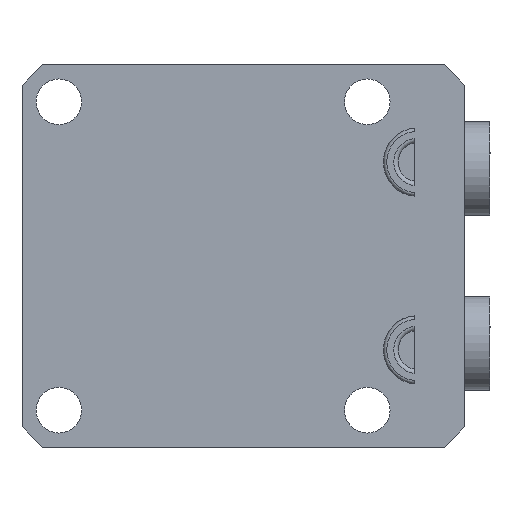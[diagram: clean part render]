
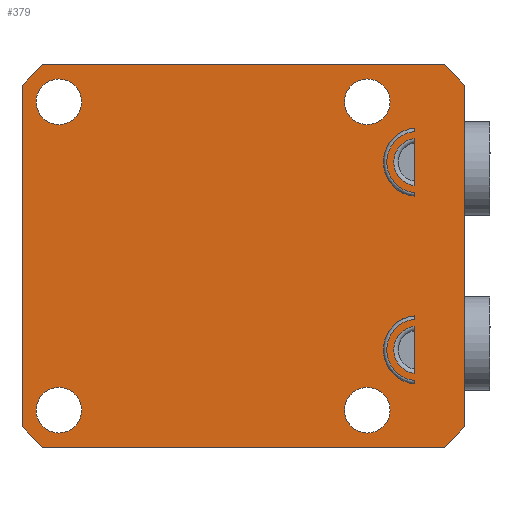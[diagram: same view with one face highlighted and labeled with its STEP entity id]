
A CAD part, front view. The second image highlights one B-rep face of the part: STEP entity #379.
In plain terms, the highlighted planar face has unit normal (0, -1, 0).
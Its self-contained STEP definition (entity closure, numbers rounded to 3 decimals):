
#246=PLANE('',#2642);
#309=FACE_BOUND('',#713,.T.);
#310=FACE_BOUND('',#714,.T.);
#311=FACE_BOUND('',#715,.T.);
#312=FACE_BOUND('',#716,.T.);
#313=FACE_BOUND('',#717,.T.);
#314=FACE_BOUND('',#718,.T.);
#315=FACE_BOUND('',#719,.T.);
#316=FACE_BOUND('',#720,.T.);
#317=FACE_BOUND('',#721,.T.);
#379=ADVANCED_FACE('',(#309,#310,#311,#312,#313,#314,#315,#316,#317),#246,
 .F.);
#713=EDGE_LOOP('',(#1090,#1091,#1092,#1093));
#714=EDGE_LOOP('',(#1094,#1095,#1096,#1097));
#715=EDGE_LOOP('',(#1098,#1099,#1100,#1101,#1102,#1103,#1104,#1105));
#716=EDGE_LOOP('',(#1106,#1107));
#717=EDGE_LOOP('',(#1108,#1109));
#718=EDGE_LOOP('',(#1110,#1111));
#719=EDGE_LOOP('',(#1112,#1113));
#720=EDGE_LOOP('',(#1114,#1115));
#721=EDGE_LOOP('',(#1116,#1117));
#867=CIRCLE('',#2590,4.6);
#871=CIRCLE('',#2596,3.55);
#873=CIRCLE('',#2599,5.1);
#876=CIRCLE('',#2604,5.1);
#878=CIRCLE('',#2607,3.55);
#880=CIRCLE('',#2611,4.6);
#885=CIRCLE('',#2622,3.4);
#887=CIRCLE('',#2625,3.4);
#889=CIRCLE('',#2628,3.4);
#891=CIRCLE('',#2631,3.4);
#895=CIRCLE('',#2638,3.4);
#896=CIRCLE('',#2639,3.4);
#897=CIRCLE('',#2640,3.4);
#898=CIRCLE('',#2641,3.4);
#1090=ORIENTED_EDGE('',*,*,#1936,.F.);
#1091=ORIENTED_EDGE('',*,*,#1994,.T.);
#1092=ORIENTED_EDGE('',*,*,#1945,.F.);
#1093=ORIENTED_EDGE('',*,*,#1995,.T.);
#1094=ORIENTED_EDGE('',*,*,#1996,.T.);
#1095=ORIENTED_EDGE('',*,*,#1929,.T.);
#1096=ORIENTED_EDGE('',*,*,#1997,.T.);
#1097=ORIENTED_EDGE('',*,*,#1916,.T.);
#1098=ORIENTED_EDGE('',*,*,#1956,.F.);
#1099=ORIENTED_EDGE('',*,*,#1998,.T.);
#1100=ORIENTED_EDGE('',*,*,#1999,.F.);
#1101=ORIENTED_EDGE('',*,*,#2000,.T.);
#1102=ORIENTED_EDGE('',*,*,#2001,.F.);
#1103=ORIENTED_EDGE('',*,*,#2002,.T.);
#1104=ORIENTED_EDGE('',*,*,#2003,.F.);
#1105=ORIENTED_EDGE('',*,*,#2004,.T.);
#1106=ORIENTED_EDGE('',*,*,#1974,.F.);
#1107=ORIENTED_EDGE('',*,*,#2005,.F.);
#1108=ORIENTED_EDGE('',*,*,#1970,.F.);
#1109=ORIENTED_EDGE('',*,*,#2006,.F.);
#1110=ORIENTED_EDGE('',*,*,#1966,.F.);
#1111=ORIENTED_EDGE('',*,*,#2007,.F.);
#1112=ORIENTED_EDGE('',*,*,#1962,.F.);
#1113=ORIENTED_EDGE('',*,*,#2008,.F.);
#1114=ORIENTED_EDGE('',*,*,#2009,.T.);
#1115=ORIENTED_EDGE('',*,*,#1939,.T.);
#1116=ORIENTED_EDGE('',*,*,#1924,.F.);
#1117=ORIENTED_EDGE('',*,*,#2010,.T.);
#1690=VERTEX_POINT('',#3602);
#1691=VERTEX_POINT('',#3603);
#1698=VERTEX_POINT('',#3686);
#1699=VERTEX_POINT('',#3687);
#1702=VERTEX_POINT('',#3728);
#1703=VERTEX_POINT('',#3730);
#1708=VERTEX_POINT('',#3743);
#1710=VERTEX_POINT('',#3746);
#1712=VERTEX_POINT('',#3752);
#1713=VERTEX_POINT('',#3753);
#1716=VERTEX_POINT('',#3830);
#1717=VERTEX_POINT('',#3831);
#1722=VERTEX_POINT('',#3914);
#1723=VERTEX_POINT('',#3916);
#1728=VERTEX_POINT('',#3929);
#1729=VERTEX_POINT('',#3930);
#1732=VERTEX_POINT('',#3938);
#1733=VERTEX_POINT('',#3939);
#1736=VERTEX_POINT('',#3947);
#1737=VERTEX_POINT('',#3948);
#1740=VERTEX_POINT('',#3956);
#1741=VERTEX_POINT('',#3957);
#1760=VERTEX_POINT('',#4040);
#1761=VERTEX_POINT('',#4042);
#1762=VERTEX_POINT('',#4044);
#1763=VERTEX_POINT('',#4046);
#1764=VERTEX_POINT('',#4048);
#1765=VERTEX_POINT('',#4050);
#1916=EDGE_CURVE('',#1690,#1691,#867,.T.);
#1924=EDGE_CURVE('',#1698,#1699,#871,.T.);
#1929=EDGE_CURVE('',#1703,#1702,#873,.T.);
#1936=EDGE_CURVE('',#1708,#1710,#876,.T.);
#1939=EDGE_CURVE('',#1712,#1713,#878,.T.);
#1945=EDGE_CURVE('',#1716,#1717,#880,.T.);
#1956=EDGE_CURVE('',#1722,#1723,#2269,.T.);
#1962=EDGE_CURVE('',#1728,#1729,#885,.T.);
#1966=EDGE_CURVE('',#1732,#1733,#887,.T.);
#1970=EDGE_CURVE('',#1736,#1737,#889,.T.);
#1974=EDGE_CURVE('',#1740,#1741,#891,.T.);
#1994=EDGE_CURVE('',#1708,#1717,#2285,.T.);
#1995=EDGE_CURVE('',#1716,#1710,#2286,.T.);
#1996=EDGE_CURVE('',#1691,#1703,#2287,.T.);
#1997=EDGE_CURVE('',#1702,#1690,#2288,.T.);
#1998=EDGE_CURVE('',#1722,#1760,#2289,.T.);
#1999=EDGE_CURVE('',#1761,#1760,#2290,.T.);
#2000=EDGE_CURVE('',#1761,#1762,#2291,.T.);
#2001=EDGE_CURVE('',#1763,#1762,#2292,.T.);
#2002=EDGE_CURVE('',#1763,#1764,#2293,.T.);
#2003=EDGE_CURVE('',#1765,#1764,#2294,.T.);
#2004=EDGE_CURVE('',#1765,#1723,#2295,.T.);
#2005=EDGE_CURVE('',#1741,#1740,#895,.T.);
#2006=EDGE_CURVE('',#1737,#1736,#896,.T.);
#2007=EDGE_CURVE('',#1733,#1732,#897,.T.);
#2008=EDGE_CURVE('',#1729,#1728,#898,.T.);
#2009=EDGE_CURVE('',#1713,#1712,#2296,.T.);
#2010=EDGE_CURVE('',#1698,#1699,#2297,.T.);
#2269=LINE('',#3915,#2429);
#2285=LINE('',#4035,#2445);
#2286=LINE('',#4036,#2446);
#2287=LINE('',#4037,#2447);
#2288=LINE('',#4038,#2448);
#2289=LINE('',#4039,#2449);
#2290=LINE('',#4041,#2450);
#2291=LINE('',#4043,#2451);
#2292=LINE('',#4045,#2452);
#2293=LINE('',#4047,#2453);
#2294=LINE('',#4049,#2454);
#2295=LINE('',#4051,#2455);
#2296=LINE('',#4056,#2456);
#2297=LINE('',#4057,#2457);
#2429=VECTOR('',#2954,1.);
#2445=VECTOR('',#3010,1.);
#2446=VECTOR('',#3011,1.);
#2447=VECTOR('',#3012,1.);
#2448=VECTOR('',#3013,1.);
#2449=VECTOR('',#3014,1.);
#2450=VECTOR('',#3015,1.);
#2451=VECTOR('',#3016,1.);
#2452=VECTOR('',#3017,1.);
#2453=VECTOR('',#3018,1.);
#2454=VECTOR('',#3019,1.);
#2455=VECTOR('',#3020,1.);
#2456=VECTOR('',#3029,1.);
#2457=VECTOR('',#3030,1.);
#2590=AXIS2_PLACEMENT_3D('',#3601,#2887,#2888);
#2596=AXIS2_PLACEMENT_3D('',#3685,#2899,#2900);
#2599=AXIS2_PLACEMENT_3D('',#3729,#2906,#2907);
#2604=AXIS2_PLACEMENT_3D('',#3745,#2920,#2921);
#2607=AXIS2_PLACEMENT_3D('',#3751,#2927,#2928);
#2611=AXIS2_PLACEMENT_3D('',#3829,#2935,#2936);
#2622=AXIS2_PLACEMENT_3D('',#3928,#2966,#2967);
#2625=AXIS2_PLACEMENT_3D('',#3937,#2974,#2975);
#2628=AXIS2_PLACEMENT_3D('',#3946,#2982,#2983);
#2631=AXIS2_PLACEMENT_3D('',#3955,#2990,#2991);
#2638=AXIS2_PLACEMENT_3D('',#4052,#3021,#3022);
#2639=AXIS2_PLACEMENT_3D('',#4053,#3023,#3024);
#2640=AXIS2_PLACEMENT_3D('',#4054,#3025,#3026);
#2641=AXIS2_PLACEMENT_3D('',#4055,#3027,#3028);
#2642=AXIS2_PLACEMENT_3D('',#4058,#3031,#3032);
#2887=DIRECTION('',(0.,-1.,0.));
#2888=DIRECTION('',(0.,0.,-1.));
#2899=DIRECTION('',(0.,-1.,0.));
#2900=DIRECTION('',(0.,0.,-1.));
#2906=DIRECTION('',(0.,1.,0.));
#2907=DIRECTION('',(0.,0.,1.));
#2920=DIRECTION('',(0.,-1.,0.));
#2921=DIRECTION('',(0.,0.,-1.));
#2927=DIRECTION('',(0.,1.,0.));
#2928=DIRECTION('',(0.,0.,1.));
#2935=DIRECTION('',(0.,1.,0.));
#2936=DIRECTION('',(0.,0.,1.));
#2954=DIRECTION('',(0.,0.,-1.));
#2966=DIRECTION('',(0.,-1.,0.));
#2967=DIRECTION('',(0.,0.,1.));
#2974=DIRECTION('',(0.,-1.,0.));
#2975=DIRECTION('',(0.,0.,1.));
#2982=DIRECTION('',(0.,-1.,0.));
#2983=DIRECTION('',(0.,0.,1.));
#2990=DIRECTION('',(0.,-1.,0.));
#2991=DIRECTION('',(0.,0.,1.));
#3010=DIRECTION('',(0.,0.,-1.));
#3011=DIRECTION('',(0.,0.,-1.));
#3012=DIRECTION('',(0.,0.,-1.));
#3013=DIRECTION('',(0.,0.,-1.));
#3014=DIRECTION('',(-0.707,0.,0.707));
#3015=DIRECTION('',(1.,0.,0.));
#3016=DIRECTION('',(-0.707,0.,-0.707));
#3017=DIRECTION('',(0.,0.,1.));
#3018=DIRECTION('',(0.707,0.,-0.707));
#3019=DIRECTION('',(-1.,0.,0.));
#3020=DIRECTION('',(0.707,0.,0.707));
#3021=DIRECTION('',(0.,-1.,0.));
#3022=DIRECTION('',(0.,0.,1.));
#3023=DIRECTION('',(0.,-1.,0.));
#3024=DIRECTION('',(0.,0.,1.));
#3025=DIRECTION('',(0.,-1.,0.));
#3026=DIRECTION('',(0.,0.,1.));
#3027=DIRECTION('',(0.,-1.,0.));
#3028=DIRECTION('',(0.,0.,1.));
#3029=DIRECTION('',(0.,0.,-1.));
#3030=DIRECTION('',(0.,0.,-1.));
#3031=DIRECTION('',(0.,1.,0.));
#3032=DIRECTION('',(0.,0.,1.));
#3601=CARTESIAN_POINT('',(30.5,0.,14.));
#3602=CARTESIAN_POINT('',(30.,0.,18.573));
#3603=CARTESIAN_POINT('',(30.,0.,9.427));
#3685=CARTESIAN_POINT('',(30.5,0.,14.));
#3686=CARTESIAN_POINT('',(30.,0.,17.515));
#3687=CARTESIAN_POINT('',(30.,0.,10.485));
#3728=CARTESIAN_POINT('',(30.,0.,19.075));
#3729=CARTESIAN_POINT('',(30.5,0.,14.));
#3730=CARTESIAN_POINT('',(30.,0.,8.925));
#3743=CARTESIAN_POINT('',(30.,0.,-8.925));
#3745=CARTESIAN_POINT('',(30.5,0.,-14.));
#3746=CARTESIAN_POINT('',(30.,0.,-19.075));
#3751=CARTESIAN_POINT('',(30.5,0.,-14.));
#3752=CARTESIAN_POINT('',(30.,0.,-17.515));
#3753=CARTESIAN_POINT('',(30.,0.,-10.485));
#3829=CARTESIAN_POINT('',(30.5,0.,-14.));
#3830=CARTESIAN_POINT('',(30.,0.,-18.573));
#3831=CARTESIAN_POINT('',(30.,0.,-9.427));
#3914=CARTESIAN_POINT('',(37.5,0.,25.5));
#3915=CARTESIAN_POINT('',(37.5,0.,-28.5));
#3916=CARTESIAN_POINT('',(37.5,0.,-25.5));
#3928=CARTESIAN_POINT('',(-23.,0.,23.));
#3929=CARTESIAN_POINT('',(-23.,0.,26.4));
#3930=CARTESIAN_POINT('',(-23.,0.,19.6));
#3937=CARTESIAN_POINT('',(23.,0.,23.));
#3938=CARTESIAN_POINT('',(23.,0.,26.4));
#3939=CARTESIAN_POINT('',(23.,0.,19.6));
#3946=CARTESIAN_POINT('',(-23.,0.,-23.));
#3947=CARTESIAN_POINT('',(-23.,0.,-19.6));
#3948=CARTESIAN_POINT('',(-23.,0.,-26.4));
#3955=CARTESIAN_POINT('',(23.,0.,-23.));
#3956=CARTESIAN_POINT('',(23.,0.,-19.6));
#3957=CARTESIAN_POINT('',(23.,0.,-26.4));
#4035=CARTESIAN_POINT('',(30.,0.,-28.5));
#4036=CARTESIAN_POINT('',(30.,0.,-28.5));
#4037=CARTESIAN_POINT('',(30.,0.,-28.5));
#4038=CARTESIAN_POINT('',(30.,0.,-28.5));
#4039=CARTESIAN_POINT('',(37.5,0.,25.5));
#4040=CARTESIAN_POINT('',(34.5,0.,28.5));
#4041=CARTESIAN_POINT('',(-28.5,0.,28.5));
#4042=CARTESIAN_POINT('',(-25.5,0.,28.5));
#4043=CARTESIAN_POINT('',(-25.5,0.,28.5));
#4044=CARTESIAN_POINT('',(-28.5,0.,25.5));
#4045=CARTESIAN_POINT('',(-28.5,0.,-28.5));
#4046=CARTESIAN_POINT('',(-28.5,0.,-25.5));
#4047=CARTESIAN_POINT('',(-28.5,0.,-25.5));
#4048=CARTESIAN_POINT('',(-25.5,0.,-28.5));
#4049=CARTESIAN_POINT('',(-28.5,0.,-28.5));
#4050=CARTESIAN_POINT('',(34.5,0.,-28.5));
#4051=CARTESIAN_POINT('',(34.5,0.,-28.5));
#4052=CARTESIAN_POINT('',(23.,0.,-23.));
#4053=CARTESIAN_POINT('',(-23.,0.,-23.));
#4054=CARTESIAN_POINT('',(23.,0.,23.));
#4055=CARTESIAN_POINT('',(-23.,0.,23.));
#4056=CARTESIAN_POINT('',(30.,0.,-28.5));
#4057=CARTESIAN_POINT('',(30.,0.,-28.5));
#4058=CARTESIAN_POINT('',(-28.5,0.,28.5));
